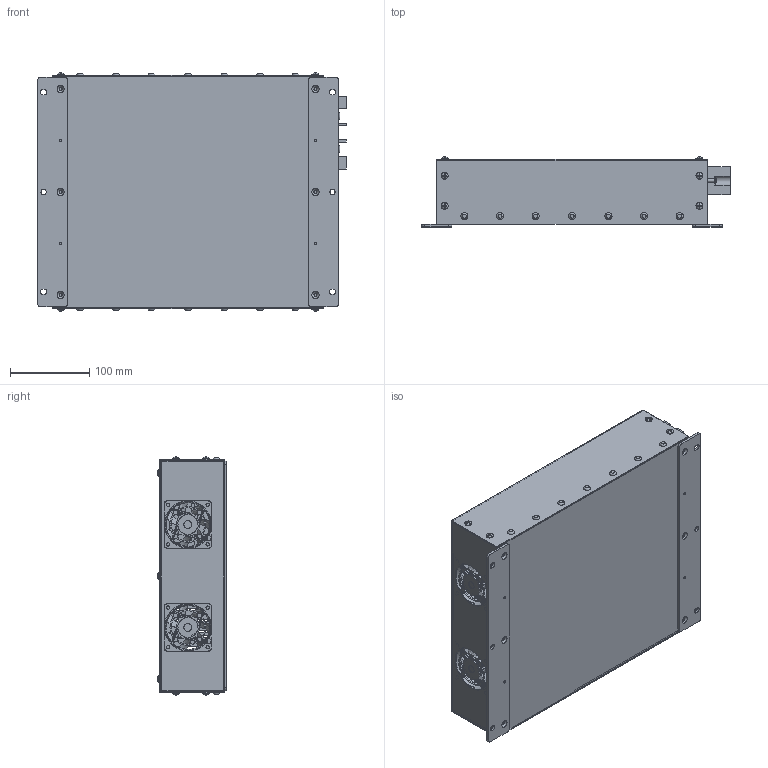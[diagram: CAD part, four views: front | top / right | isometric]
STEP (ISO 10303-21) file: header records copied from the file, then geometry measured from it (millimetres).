
FILE_DESCRIPTION(/* description */ ('','CAx-IF Rec.Pracs.---Representation and Presentation of Product Manufacturing Information (PMI)---4.0---2014-10-13'),/* implementation_level */ '2;1');
FILE_NAME(/* name */ 'H:\04_배터리_전기종\고부하용 배터리 케이스_3D\[NEW] W2 고객용\W2.stp',/* time_stamp */ '2021-12-10T14:33:43+09:00',/* author */ ('jjang'),/* organization */ (''),/* preprocessor_version */ 'ST-DEVELOPER v18.1',/* originating_system */ 'Autodesk Inventor 2021',/* authorisation */ '');
FILE_SCHEMA (('AP242_MANAGED_MODEL_BASED_3D_ENGINEERING_MIM_LF { 1 0 10303 442 1 1 4 }'));
Products named in the file (3): W2; BRACKET; CASE ASSEMBLY
Assembly tree (3 placements, depth 2):
  W2
    BRACKET  x2
    CASE ASSEMBLY
Bounding box: 390 x 88.32 x 300.84 mm (x, y, z)
Volume: 600112.3 mm3; surface area: 739814.9 mm2
Topology: 3 solids, 3 shells, 2144 faces, 5844 edges, 3872 vertices
Faces by surface type: plane 1142, cylinder 630, bspline 278, torus 58, cone 22, sphere 14
Full cylindrical faces by diameter (mm): 0.9 x4, 3 x4, 3.6 x6, 3.8 x28, 4 x8, 4.3 x8, 4.5 x12, 5 x6, 5.3 x28, 6.6 x2, 8.8 x16, 10 x6, 25.4 x2, 55.4 x2
Entity records: 83205 total; most frequent: CARTESIAN_POINT 28585, ORIENTED_EDGE 11424, DIRECTION 10475, EDGE_CURVE 5712, VERTEX_POINT 3743, AXIS2_PLACEMENT_3D 3639, LINE 3197, VECTOR 3197
